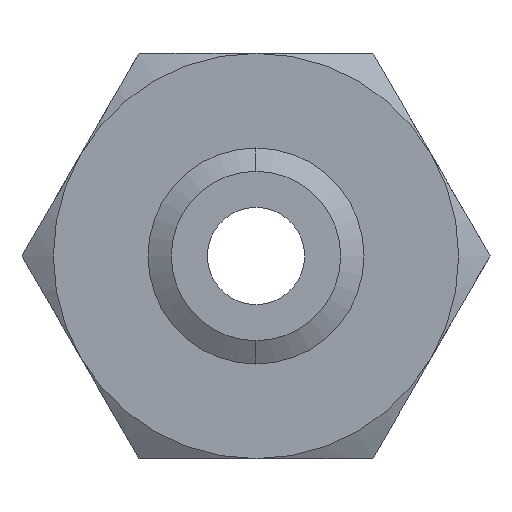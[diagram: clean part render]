
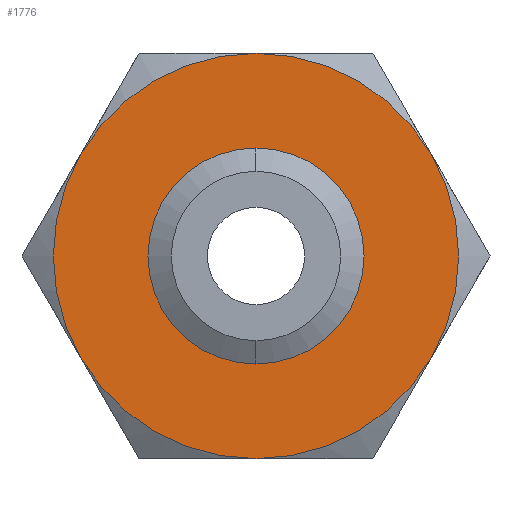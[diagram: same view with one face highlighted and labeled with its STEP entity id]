
A CAD part, front view. The second image highlights one B-rep face of the part: STEP entity #1776.
In plain terms, the highlighted planar face has unit normal (0, -1, 0).
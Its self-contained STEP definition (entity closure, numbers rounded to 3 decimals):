
#890 = DIRECTION ( 'NONE',  ( 0., 0., -1. ) ) ;
#891 = DIRECTION ( 'NONE',  ( 0., -1., 0. ) ) ;
#892 = CARTESIAN_POINT ( 'NONE',  ( 0., 0., 0. ) ) ;
#893 = AXIS2_PLACEMENT_3D ( 'NONE', #892, #891, #890 ) ;
#894 = CIRCLE ( 'NONE', #893, 15.67 ) ;
#896 = CARTESIAN_POINT ( 'NONE',  ( 0., 0., -15.67 ) ) ;
#907 = CARTESIAN_POINT ( 'NONE',  ( 0., 0., 15.67 ) ) ;
#964 = DIRECTION ( 'NONE',  ( 0., 1., 0. ) ) ;
#965 = CARTESIAN_POINT ( 'NONE',  ( 0., 0., 0. ) ) ;
#966 = AXIS2_PLACEMENT_3D ( 'NONE', #965, #964, #1025 ) ;
#967 = CIRCLE ( 'NONE', #966, 37.5 ) ;
#972 = CARTESIAN_POINT ( 'NONE',  ( 0., 0., 37.5 ) ) ;
#1009 = DIRECTION ( 'NONE',  ( 0., 0., 1. ) ) ;
#1010 = DIRECTION ( 'NONE',  ( 0., 1., 0. ) ) ;
#1011 = CARTESIAN_POINT ( 'NONE',  ( 21.651, 0., -37.5 ) ) ;
#1012 = AXIS2_PLACEMENT_3D ( 'NONE', #1011, #1010, #1009 ) ;
#1013 = PLANE ( 'NONE',  #1012 ) ;
#1014 = FACE_BOUND ( 'NONE', #1969, .T. ) ;
#1015 = FACE_OUTER_BOUND ( 'NONE', #1772, .T. ) ;
#1025 = DIRECTION ( 'NONE',  ( 0., 0., 1. ) ) ;
#1283 = CARTESIAN_POINT ( 'NONE',  ( 32.476, 0., 18.75 ) ) ;
#1324 = DIRECTION ( 'NONE',  ( 0., 0., -1. ) ) ;
#1325 = DIRECTION ( 'NONE',  ( 0., -1., 0. ) ) ;
#1326 = CARTESIAN_POINT ( 'NONE',  ( 0., 0., 0. ) ) ;
#1327 = AXIS2_PLACEMENT_3D ( 'NONE', #1326, #1325, #1324 ) ;
#1328 = CIRCLE ( 'NONE', #1327, 15.67 ) ;
#1339 = CARTESIAN_POINT ( 'NONE',  ( 0., 0., 0. ) ) ;
#1340 = AXIS2_PLACEMENT_3D ( 'NONE', #1339, #1403, #1402 ) ;
#1341 = CIRCLE ( 'NONE', #1340, 37.5 ) ;
#1342 = CARTESIAN_POINT ( 'NONE',  ( 0., 0., -37.5 ) ) ;
#1343 = DIRECTION ( 'NONE',  ( 0., 0., 1. ) ) ;
#1344 = DIRECTION ( 'NONE',  ( 0., 1., 0. ) ) ;
#1345 = CARTESIAN_POINT ( 'NONE',  ( 0., 0., 0. ) ) ;
#1346 = AXIS2_PLACEMENT_3D ( 'NONE', #1345, #1344, #1343 ) ;
#1347 = CIRCLE ( 'NONE', #1346, 37.5 ) ;
#1348 = CARTESIAN_POINT ( 'NONE',  ( -32.476, 0., 18.75 ) ) ;
#1354 = CARTESIAN_POINT ( 'NONE',  ( -32.476, 0., -18.75 ) ) ;
#1377 = DIRECTION ( 'NONE',  ( 0., 0., 1. ) ) ;
#1378 = DIRECTION ( 'NONE',  ( 0., 1., 0. ) ) ;
#1379 = CARTESIAN_POINT ( 'NONE',  ( 0., 0., 0. ) ) ;
#1380 = AXIS2_PLACEMENT_3D ( 'NONE', #1379, #1378, #1377 ) ;
#1381 = CIRCLE ( 'NONE', #1380, 37.5 ) ;
#1391 = DIRECTION ( 'NONE',  ( 0., 0., 1. ) ) ;
#1392 = DIRECTION ( 'NONE',  ( 0., 1., 0. ) ) ;
#1393 = CARTESIAN_POINT ( 'NONE',  ( 0., 0., 0. ) ) ;
#1394 = AXIS2_PLACEMENT_3D ( 'NONE', #1393, #1392, #1391 ) ;
#1395 = CIRCLE ( 'NONE', #1394, 37.5 ) ;
#1396 = DIRECTION ( 'NONE',  ( 0., 0., 1. ) ) ;
#1397 = DIRECTION ( 'NONE',  ( 0., 1., 0. ) ) ;
#1398 = CARTESIAN_POINT ( 'NONE',  ( 0., 0., 0. ) ) ;
#1399 = AXIS2_PLACEMENT_3D ( 'NONE', #1398, #1397, #1396 ) ;
#1400 = CIRCLE ( 'NONE', #1399, 37.5 ) ;
#1401 = CARTESIAN_POINT ( 'NONE',  ( 32.476, 0., -18.75 ) ) ;
#1402 = DIRECTION ( 'NONE',  ( 0., 0., 1. ) ) ;
#1403 = DIRECTION ( 'NONE',  ( 0., 1., 0. ) ) ;
#1705 = VERTEX_POINT ( 'NONE', #896 ) ;
#1708 = EDGE_CURVE ( 'NONE', #1705, #1740, #894, .T. ) ;
#1740 = VERTEX_POINT ( 'NONE', #907 ) ;
#1770 = VERTEX_POINT ( 'NONE', #972 ) ;
#1771 = EDGE_CURVE ( 'NONE', #1770, #1951, #967, .T. ) ;
#1772 = EDGE_LOOP ( 'NONE', ( #1774, #1952, #1987, #1990, #1992, #1995 ) ) ;
#1774 = ORIENTED_EDGE ( 'NONE', *, *, #1771, .F. ) ;
#1776 = ADVANCED_FACE ( 'NONE', ( #1015, #1014 ), #1013, .F. ) ;
#1951 = VERTEX_POINT ( 'NONE', #1283 ) ;
#1952 = ORIENTED_EDGE ( 'NONE', *, *, #2004, .F. ) ;
#1966 = EDGE_CURVE ( 'NONE', #1740, #1705, #1328, .T. ) ;
#1969 = EDGE_LOOP ( 'NONE', ( #1970, #1971 ) ) ;
#1970 = ORIENTED_EDGE ( 'NONE', *, *, #1708, .F. ) ;
#1971 = ORIENTED_EDGE ( 'NONE', *, *, #1966, .F. ) ;
#1985 = VERTEX_POINT ( 'NONE', #1354 ) ;
#1986 = VERTEX_POINT ( 'NONE', #1348 ) ;
#1987 = ORIENTED_EDGE ( 'NONE', *, *, #1988, .F. ) ;
#1988 = EDGE_CURVE ( 'NONE', #1985, #1986, #1347, .T. ) ;
#1989 = EDGE_CURVE ( 'NONE', #1991, #1985, #1341, .T. ) ;
#1990 = ORIENTED_EDGE ( 'NONE', *, *, #1989, .F. ) ;
#1991 = VERTEX_POINT ( 'NONE', #1342 ) ;
#1992 = ORIENTED_EDGE ( 'NONE', *, *, #1994, .F. ) ;
#1993 = VERTEX_POINT ( 'NONE', #1401 ) ;
#1994 = EDGE_CURVE ( 'NONE', #1993, #1991, #1400, .T. ) ;
#1995 = ORIENTED_EDGE ( 'NONE', *, *, #1996, .F. ) ;
#1996 = EDGE_CURVE ( 'NONE', #1951, #1993, #1395, .T. ) ;
#2004 = EDGE_CURVE ( 'NONE', #1986, #1770, #1381, .T. ) ;
